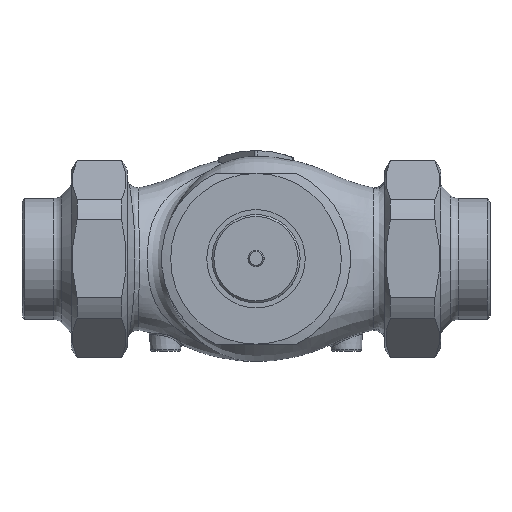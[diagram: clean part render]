
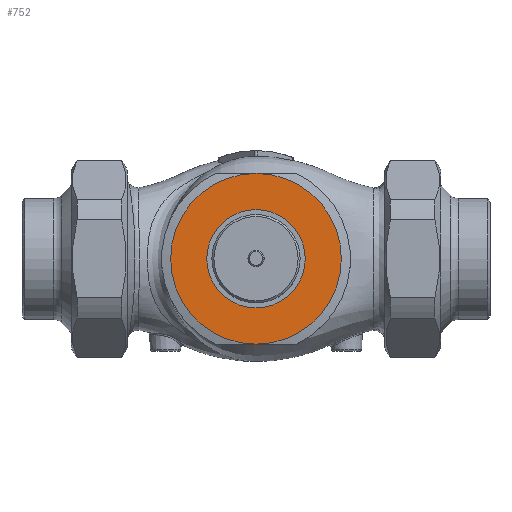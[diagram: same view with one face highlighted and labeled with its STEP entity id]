
A CAD part, top view. The second image highlights one B-rep face of the part: STEP entity #752.
In plain terms, the highlighted planar face has unit normal (0, 0, 1).
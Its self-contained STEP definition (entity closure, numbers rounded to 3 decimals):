
#440=PLANE('',#2469);
#577=CIRCLE('',#2414,19.);
#592=CIRCLE('',#2455,42.5);
#596=CIRCLE('',#2462,42.5);
#752=ADVANCED_FACE('',(#924,#925),#440,.T.);
#924=FACE_BOUND('',#1150,.T.);
#925=FACE_BOUND('',#1151,.T.);
#1150=EDGE_LOOP('',(#1545));
#1151=EDGE_LOOP('',(#1546,#1547));
#1545=ORIENTED_EDGE('',*,*,#2090,.F.);
#1546=ORIENTED_EDGE('',*,*,#2128,.T.);
#1547=ORIENTED_EDGE('',*,*,#2119,.T.);
#1865=VERTEX_POINT('',#12634);
#1888=VERTEX_POINT('',#12708);
#1890=VERTEX_POINT('',#12715);
#2090=EDGE_CURVE('',#1865,#1865,#577,.T.);
#2119=EDGE_CURVE('',#1888,#1890,#592,.T.);
#2128=EDGE_CURVE('',#1890,#1888,#596,.T.);
#2414=AXIS2_PLACEMENT_3D('',#12633,#2791,#2792);
#2455=AXIS2_PLACEMENT_3D('',#12716,#2881,#2882);
#2462=AXIS2_PLACEMENT_3D('',#12743,#2897,#2898);
#2469=AXIS2_PLACEMENT_3D('',#12766,#2913,#2914);
#2791=DIRECTION('',(0.,0.,1.));
#2792=DIRECTION('',(-1.,0.,0.));
#2881=DIRECTION('',(0.,0.,1.));
#2882=DIRECTION('',(1.,0.,0.));
#2897=DIRECTION('',(0.,0.,1.));
#2898=DIRECTION('',(1.,0.,0.));
#2913=DIRECTION('',(0.,0.,1.));
#2914=DIRECTION('',(1.,0.,0.));
#12633=CARTESIAN_POINT('',(0.,0.,67.));
#12634=CARTESIAN_POINT('',(-19.,0.,67.));
#12708=CARTESIAN_POINT('',(0.,42.5,67.));
#12715=CARTESIAN_POINT('',(0.,-42.5,67.));
#12716=CARTESIAN_POINT('',(0.,0.,67.));
#12743=CARTESIAN_POINT('',(0.,0.,67.));
#12766=CARTESIAN_POINT('',(30.5,0.,67.));
